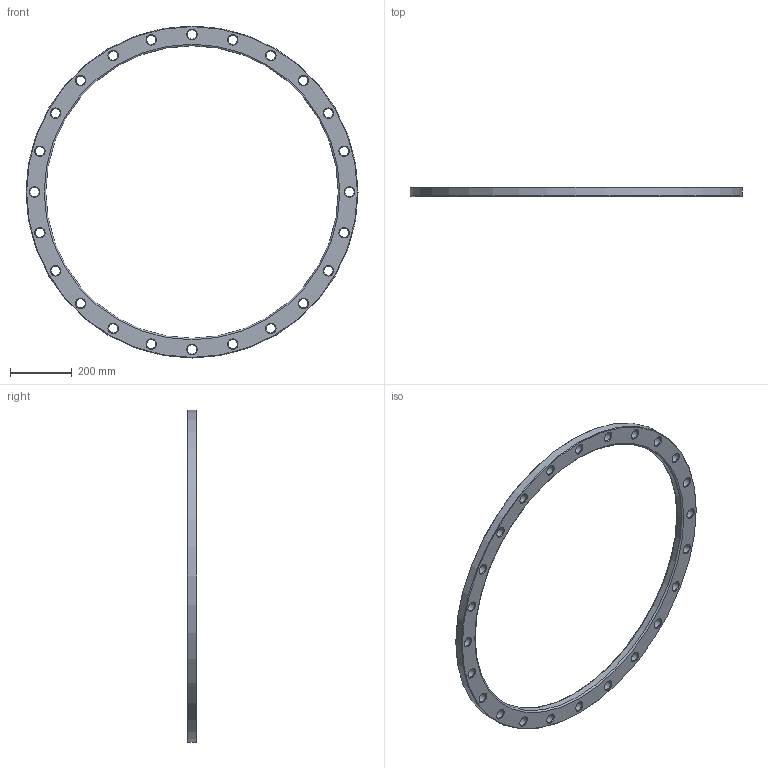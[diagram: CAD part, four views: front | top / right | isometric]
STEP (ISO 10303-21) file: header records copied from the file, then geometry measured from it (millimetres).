
FILE_DESCRIPTION(/* description */ ('Unknown'),/* implementation_level */ '2;1');
FILE_NAME(/* name */ 'FZ900A',/* time_stamp */ '2021-03-15T09:30:21+01:00',/* author */ ('Unknown'),/* organization */ ('Unknown'),/* preprocessor_version */ 'ST-DEVELOPER v16.7',/* originating_system */ 'Solid Edge',/* authorisation */ 'Unknown');
FILE_SCHEMA (('AUTOMOTIVE_DESIGN {1 0 10303 214 3 1 1}'));
Length unit declared in the file: millimetre
Products named in the file (1): FZ900A
Bounding box: 1075 x 30 x 1075 mm (x, y, z)
Volume: 5534330.1 mm3; surface area: 605324.6 mm2
Topology: 1 solids, 1 shells, 80 faces, 254 edges, 176 vertices
Faces by surface type: cone 50, cylinder 26, plane 2, torus 2
Full cylindrical faces by diameter (mm): 30 x24, 947 x1, 1075 x1
Entity records: 1974 total; most frequent: DIRECTION 370, CARTESIAN_POINT 289, ORIENTED_EDGE 208, EDGE_LOOP 208, FACE_BOUND 208, AXIS2_PLACEMENT_3D 185, EDGE_CURVE 104, VERTEX_POINT 104
